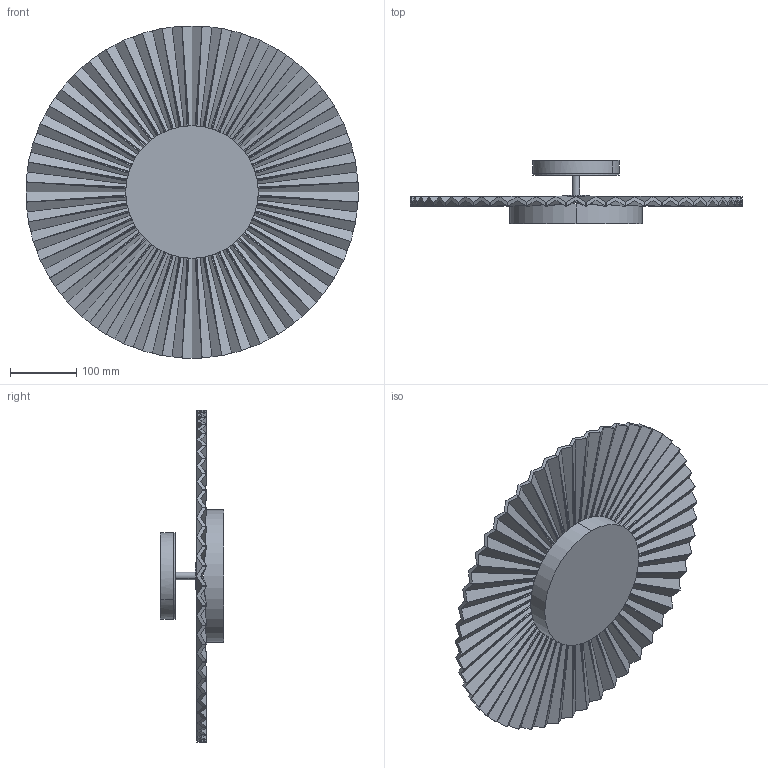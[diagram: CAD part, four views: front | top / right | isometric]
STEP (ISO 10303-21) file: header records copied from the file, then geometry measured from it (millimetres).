
FILE_DESCRIPTION (( 'STEP AP214' ), '1' );
FILE_NAME ('AU1132-50-LED_OSION.STEP', '2026-06-05T07:17:04', ( '' ), ( '' ), 'SwSTEP 2.0', 'SolidWorks 2023', '' );
FILE_SCHEMA (( 'AUTOMOTIVE_DESIGN' ));
Length unit declared in the file: inch
Products named in the file (1): AU1132-50-LED_OSION
Bounding box: 500 x 95.97 x 500 mm (x, y, z)
Surface area: 647410.7 mm2 (no closed solid volume)
Topology: 0 solids, 9 shells, 756 faces, 1924 edges, 1180 vertices
Faces by surface type: bspline 752, cylinder 2, plane 2
Entity records: 22591 total; most frequent: CARTESIAN_POINT 10620, ORIENTED_EDGE 3836, EDGE_CURVE 1924, B_SPLINE_CURVE_WITH_KNOTS 1902, VERTEX_POINT 1180, EDGE_LOOP 758, ADVANCED_FACE 756, FACE_OUTER_BOUND 756
